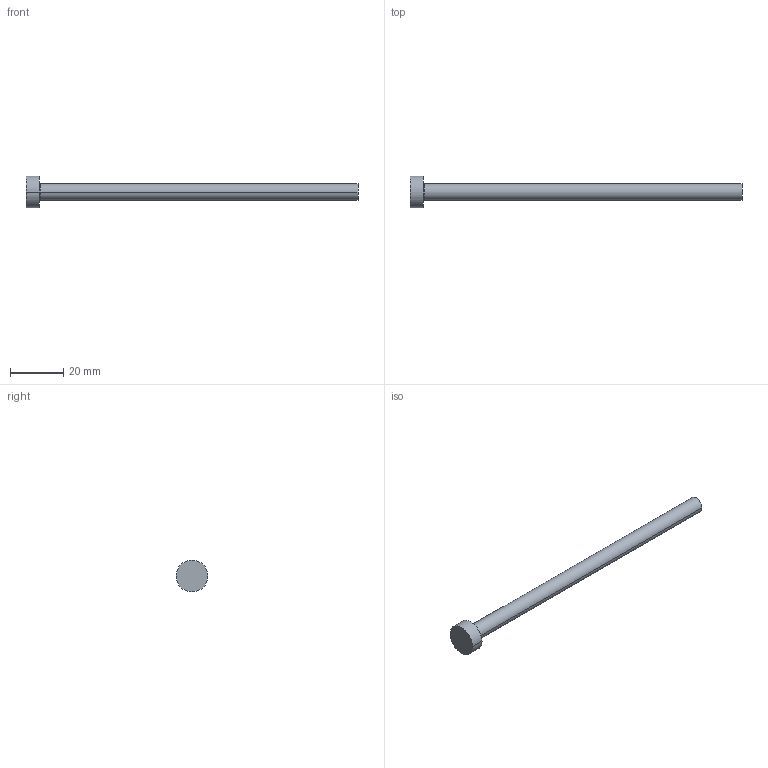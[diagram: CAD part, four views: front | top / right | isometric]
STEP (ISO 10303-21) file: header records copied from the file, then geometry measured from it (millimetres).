
FILE_DESCRIPTION (( 'STEP AP214' ), '1' );
FILE_NAME ('A-6,2x125.STEP', '2020-05-29T15:36:34', ( 'August' ), ( '' ), 'SwSTEP 2.0', 'SolidWorks 2018', '' );
FILE_SCHEMA (( 'AUTOMOTIVE_DESIGN' ));
Length unit declared in the file: millimetre
Products named in the file (1): A-6,2x125
Bounding box: 125 x 12 x 12 mm (x, y, z)
Volume: 4189.5 mm3; surface area: 2748 mm2
Topology: 1 solids, 1 shells, 9 faces, 16 edges, 10 vertices
Faces by surface type: cylinder 4, plane 3, torus 2
Entity records: 260 total; most frequent: DIRECTION 48, CARTESIAN_POINT 36, ORIENTED_EDGE 32, AXIS2_PLACEMENT_3D 22, EDGE_CURVE 16, CIRCLE 12, VERTEX_POINT 10, EDGE_LOOP 10
